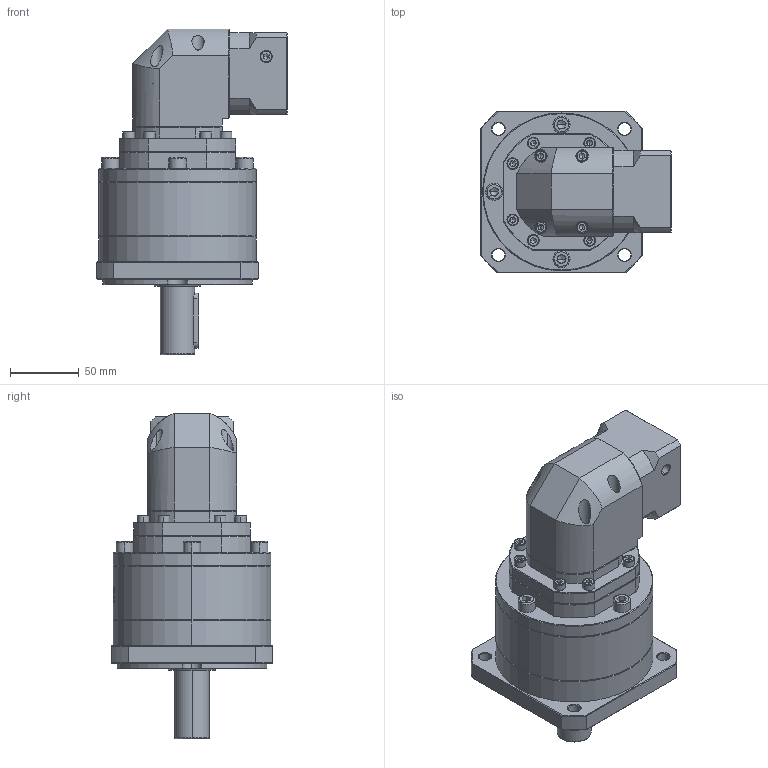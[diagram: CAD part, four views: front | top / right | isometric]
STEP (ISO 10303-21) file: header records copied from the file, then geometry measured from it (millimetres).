
FILE_DESCRIPTION (( 'STEP AP214' ), '1' );
FILE_NAME ('ZFR120A-D25-L3-P2-8-38.1-47.14x47.14-M4.step', '2023-08-27T09:49:02', ( '' ), ( '' ), 'SwSTEP 2.0', 'SolidWorks 2016', '' );
FILE_SCHEMA (( 'AUTOMOTIVE_DESIGN' ));
Length unit declared in the file: millimetre
Products named in the file (1): ZFR120A-D25-L3-P2-8-38.1-47.14x47.14-M4
Bounding box: 139.2 x 118 x 237.5 mm (x, y, z)
Volume: 1471762.5 mm3; surface area: 140676.6 mm2
Topology: 6 solids, 6 shells, 2430 faces, 6470 edges, 4157 vertices
Faces by surface type: plane 1173, cylinder 456, bspline 435, cone 346, torus 20
Entity records: 127060 total; most frequent: CARTESIAN_POINT 45187, ORIENTED_EDGE 12832, DIRECTION 9651, EDGE_CURVE 6416, VERTEX_POINT 4157, VECTOR 3401, LINE 3401, AXIS2_PLACEMENT_3D 3125
